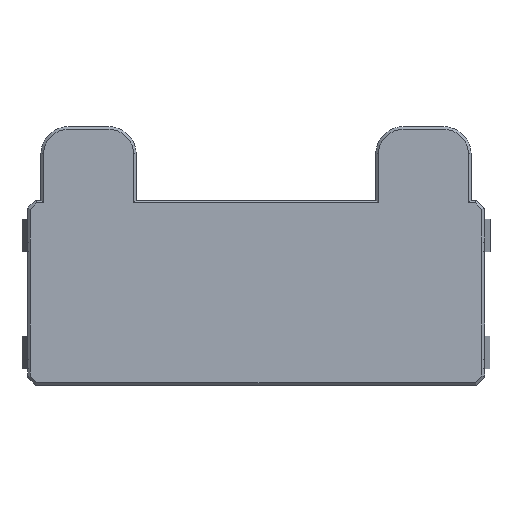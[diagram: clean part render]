
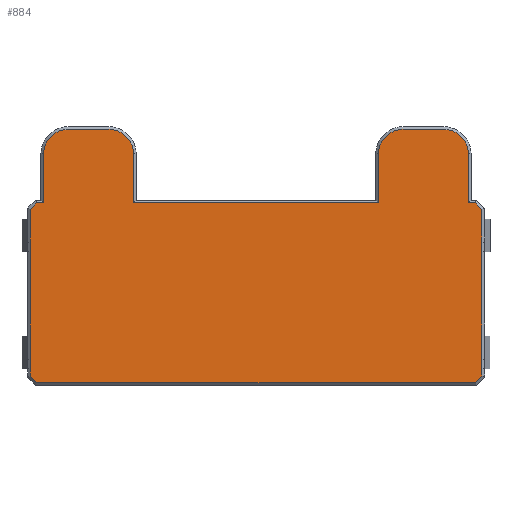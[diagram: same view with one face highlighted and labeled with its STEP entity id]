
A CAD part, top view. The second image highlights one B-rep face of the part: STEP entity #884.
In plain terms, the highlighted planar face has unit normal (0, 0, 1).
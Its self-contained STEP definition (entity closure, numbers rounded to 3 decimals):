
#649=CARTESIAN_POINT('',(17.125,-94.9,30.));
#650=DIRECTION('',(0.,0.,1.));
#651=DIRECTION('',(1.,0.,0.));
#652=AXIS2_PLACEMENT_3D('',#649,#650,#651);
#653=PLANE('',#652);
#654=CARTESIAN_POINT('',(-78.002,-64.5,30.));
#655=VERTEX_POINT('',#654);
#656=CARTESIAN_POINT('',(-78.002,-82.5,30.));
#657=VERTEX_POINT('',#656);
#658=CARTESIAN_POINT('',(-78.002,-64.5,30.));
#659=DIRECTION('',(0.,-1.,0.));
#660=VECTOR('',#659,18.);
#661=LINE('',#658,#660);
#662=EDGE_CURVE('',#655,#657,#661,.T.);
#663=ORIENTED_EDGE('',*,*,#662,.T.);
#664=CARTESIAN_POINT('',(-80.587,-82.5,30.));
#665=VERTEX_POINT('',#664);
#666=CARTESIAN_POINT('',(-78.002,-82.5,30.));
#667=DIRECTION('',(-1.,0.,0.));
#668=VECTOR('',#667,2.586);
#669=LINE('',#666,#668);
#670=EDGE_CURVE('',#657,#665,#669,.T.);
#671=ORIENTED_EDGE('',*,*,#670,.T.);
#672=CARTESIAN_POINT('',(-82.902,-84.814,30.));
#673=VERTEX_POINT('',#672);
#674=CARTESIAN_POINT('',(-80.587,-82.5,30.));
#675=DIRECTION('',(-0.707,-0.707,0.));
#676=VECTOR('',#675,3.273);
#677=LINE('',#674,#676);
#678=EDGE_CURVE('',#665,#673,#677,.T.);
#679=ORIENTED_EDGE('',*,*,#678,.T.);
#680=CARTESIAN_POINT('',(-82.901,-96.9,30.));
#681=VERTEX_POINT('',#680);
#682=CARTESIAN_POINT('',(-82.902,-84.814,30.));
#683=DIRECTION('',(0.,-1.,0.));
#684=VECTOR('',#683,12.086);
#685=LINE('',#682,#684);
#686=EDGE_CURVE('',#673,#681,#685,.T.);
#687=ORIENTED_EDGE('',*,*,#686,.T.);
#688=CARTESIAN_POINT('',(-82.901,-100.4,30.));
#689=VERTEX_POINT('',#688);
#690=CARTESIAN_POINT('',(-82.9,-96.9,30.));
#691=DIRECTION('',(0.,-1.,0.));
#692=VECTOR('',#691,3.5);
#693=LINE('',#690,#692);
#694=EDGE_CURVE('',#681,#689,#693,.T.);
#695=ORIENTED_EDGE('',*,*,#694,.T.);
#696=CARTESIAN_POINT('',(-82.901,-139.9,30.));
#697=VERTEX_POINT('',#696);
#698=CARTESIAN_POINT('',(-82.902,-100.4,30.));
#699=DIRECTION('',(0.,-1.,0.));
#700=VECTOR('',#699,39.5);
#701=LINE('',#698,#700);
#702=EDGE_CURVE('',#689,#697,#701,.T.);
#703=ORIENTED_EDGE('',*,*,#702,.T.);
#704=CARTESIAN_POINT('',(-82.901,-143.4,30.));
#705=VERTEX_POINT('',#704);
#706=CARTESIAN_POINT('',(-82.9,-139.9,30.));
#707=DIRECTION('',(0.,-1.,0.));
#708=VECTOR('',#707,3.5);
#709=LINE('',#706,#708);
#710=EDGE_CURVE('',#697,#705,#709,.T.);
#711=ORIENTED_EDGE('',*,*,#710,.T.);
#712=CARTESIAN_POINT('',(-82.902,-146.186,30.));
#713=VERTEX_POINT('',#712);
#714=CARTESIAN_POINT('',(-82.902,-143.4,30.));
#715=DIRECTION('',(0.,-1.,0.));
#716=VECTOR('',#715,2.786);
#717=LINE('',#714,#716);
#718=EDGE_CURVE('',#705,#713,#717,.T.);
#719=ORIENTED_EDGE('',*,*,#718,.T.);
#720=CARTESIAN_POINT('',(-80.587,-148.5,30.));
#721=VERTEX_POINT('',#720);
#722=CARTESIAN_POINT('',(-82.902,-146.186,30.));
#723=DIRECTION('',(0.707,-0.707,0.));
#724=VECTOR('',#723,3.273);
#725=LINE('',#722,#724);
#726=EDGE_CURVE('',#713,#721,#725,.T.);
#727=ORIENTED_EDGE('',*,*,#726,.T.);
#728=CARTESIAN_POINT('',(80.584,-148.5,30.));
#729=VERTEX_POINT('',#728);
#730=CARTESIAN_POINT('',(-80.587,-148.5,30.));
#731=DIRECTION('',(1.,0.,-0.));
#732=VECTOR('',#731,161.172);
#733=LINE('',#730,#732);
#734=EDGE_CURVE('',#721,#729,#733,.T.);
#735=ORIENTED_EDGE('',*,*,#734,.T.);
#736=CARTESIAN_POINT('',(82.998,-146.086,30.));
#737=VERTEX_POINT('',#736);
#738=CARTESIAN_POINT('',(80.584,-148.5,30.));
#739=DIRECTION('',(0.707,0.707,0.));
#740=VECTOR('',#739,3.414);
#741=LINE('',#738,#740);
#742=EDGE_CURVE('',#729,#737,#741,.T.);
#743=ORIENTED_EDGE('',*,*,#742,.T.);
#744=CARTESIAN_POINT('',(82.999,-143.4,30.));
#745=VERTEX_POINT('',#744);
#746=CARTESIAN_POINT('',(82.998,-146.086,30.));
#747=DIRECTION('',(0.,1.,0.));
#748=VECTOR('',#747,2.686);
#749=LINE('',#746,#748);
#750=EDGE_CURVE('',#737,#745,#749,.T.);
#751=ORIENTED_EDGE('',*,*,#750,.T.);
#752=CARTESIAN_POINT('',(82.999,-139.9,30.));
#753=VERTEX_POINT('',#752);
#754=CARTESIAN_POINT('',(83.,-143.4,30.));
#755=DIRECTION('',(0.,1.,0.));
#756=VECTOR('',#755,3.5);
#757=LINE('',#754,#756);
#758=EDGE_CURVE('',#745,#753,#757,.T.);
#759=ORIENTED_EDGE('',*,*,#758,.T.);
#760=CARTESIAN_POINT('',(82.999,-100.4,30.));
#761=VERTEX_POINT('',#760);
#762=CARTESIAN_POINT('',(82.998,-139.9,30.));
#763=DIRECTION('',(0.,1.,0.));
#764=VECTOR('',#763,39.5);
#765=LINE('',#762,#764);
#766=EDGE_CURVE('',#753,#761,#765,.T.);
#767=ORIENTED_EDGE('',*,*,#766,.T.);
#768=CARTESIAN_POINT('',(82.999,-96.9,30.));
#769=VERTEX_POINT('',#768);
#770=CARTESIAN_POINT('',(83.,-100.4,30.));
#771=DIRECTION('',(0.,1.,0.));
#772=VECTOR('',#771,3.5);
#773=LINE('',#770,#772);
#774=EDGE_CURVE('',#761,#769,#773,.T.);
#775=ORIENTED_EDGE('',*,*,#774,.T.);
#776=CARTESIAN_POINT('',(82.998,-84.914,30.));
#777=VERTEX_POINT('',#776);
#778=CARTESIAN_POINT('',(82.998,-96.9,30.));
#779=DIRECTION('',(0.,1.,0.));
#780=VECTOR('',#779,11.986);
#781=LINE('',#778,#780);
#782=EDGE_CURVE('',#769,#777,#781,.T.);
#783=ORIENTED_EDGE('',*,*,#782,.T.);
#784=CARTESIAN_POINT('',(80.584,-82.5,30.));
#785=VERTEX_POINT('',#784);
#786=CARTESIAN_POINT('',(82.998,-84.914,30.));
#787=DIRECTION('',(-0.707,0.707,0.));
#788=VECTOR('',#787,3.414);
#789=LINE('',#786,#788);
#790=EDGE_CURVE('',#777,#785,#789,.T.);
#791=ORIENTED_EDGE('',*,*,#790,.T.);
#792=CARTESIAN_POINT('',(77.998,-82.5,30.));
#793=VERTEX_POINT('',#792);
#794=CARTESIAN_POINT('',(80.584,-82.5,30.));
#795=DIRECTION('',(-1.,0.,0.));
#796=VECTOR('',#795,2.586);
#797=LINE('',#794,#796);
#798=EDGE_CURVE('',#785,#793,#797,.T.);
#799=ORIENTED_EDGE('',*,*,#798,.T.);
#800=CARTESIAN_POINT('',(77.998,-64.5,30.));
#801=VERTEX_POINT('',#800);
#802=CARTESIAN_POINT('',(77.998,-82.5,30.));
#803=DIRECTION('',(0.,1.,0.));
#804=VECTOR('',#803,18.);
#805=LINE('',#802,#804);
#806=EDGE_CURVE('',#793,#801,#805,.T.);
#807=ORIENTED_EDGE('',*,*,#806,.T.);
#808=CARTESIAN_POINT('',(68.998,-55.5,30.));
#809=VERTEX_POINT('',#808);
#810=CARTESIAN_POINT('',(68.998,-64.5,30.));
#811=DIRECTION('',(0.,0.,1.));
#812=DIRECTION('',(1.,0.,-0.));
#813=AXIS2_PLACEMENT_3D('',#810,#811,#812);
#814=CIRCLE('',#813,9.);
#815=EDGE_CURVE('',#801,#809,#814,.T.);
#816=ORIENTED_EDGE('',*,*,#815,.T.);
#817=CARTESIAN_POINT('',(53.998,-55.5,30.));
#818=VERTEX_POINT('',#817);
#819=CARTESIAN_POINT('',(68.998,-55.5,30.));
#820=DIRECTION('',(-1.,0.,0.));
#821=VECTOR('',#820,15.);
#822=LINE('',#819,#821);
#823=EDGE_CURVE('',#809,#818,#822,.T.);
#824=ORIENTED_EDGE('',*,*,#823,.T.);
#825=CARTESIAN_POINT('',(44.998,-64.5,30.));
#826=VERTEX_POINT('',#825);
#827=CARTESIAN_POINT('',(53.998,-64.5,30.));
#828=DIRECTION('',(0.,0.,1.));
#829=DIRECTION('',(1.,0.,-0.));
#830=AXIS2_PLACEMENT_3D('',#827,#828,#829);
#831=CIRCLE('',#830,9.);
#832=EDGE_CURVE('',#818,#826,#831,.T.);
#833=ORIENTED_EDGE('',*,*,#832,.T.);
#834=CARTESIAN_POINT('',(44.998,-82.5,30.));
#835=VERTEX_POINT('',#834);
#836=CARTESIAN_POINT('',(44.998,-64.5,30.));
#837=DIRECTION('',(0.,-1.,0.));
#838=VECTOR('',#837,18.);
#839=LINE('',#836,#838);
#840=EDGE_CURVE('',#826,#835,#839,.T.);
#841=ORIENTED_EDGE('',*,*,#840,.T.);
#842=CARTESIAN_POINT('',(-45.002,-82.5,30.));
#843=VERTEX_POINT('',#842);
#844=CARTESIAN_POINT('',(44.998,-82.5,30.));
#845=DIRECTION('',(-1.,0.,0.));
#846=VECTOR('',#845,90.);
#847=LINE('',#844,#846);
#848=EDGE_CURVE('',#835,#843,#847,.T.);
#849=ORIENTED_EDGE('',*,*,#848,.T.);
#850=CARTESIAN_POINT('',(-45.002,-64.5,30.));
#851=VERTEX_POINT('',#850);
#852=CARTESIAN_POINT('',(-45.002,-82.5,30.));
#853=DIRECTION('',(0.,1.,0.));
#854=VECTOR('',#853,18.);
#855=LINE('',#852,#854);
#856=EDGE_CURVE('',#843,#851,#855,.T.);
#857=ORIENTED_EDGE('',*,*,#856,.T.);
#858=CARTESIAN_POINT('',(-54.002,-55.5,30.));
#859=VERTEX_POINT('',#858);
#860=CARTESIAN_POINT('',(-54.002,-64.5,30.));
#861=DIRECTION('',(0.,0.,1.));
#862=DIRECTION('',(1.,0.,-0.));
#863=AXIS2_PLACEMENT_3D('',#860,#861,#862);
#864=CIRCLE('',#863,9.);
#865=EDGE_CURVE('',#851,#859,#864,.T.);
#866=ORIENTED_EDGE('',*,*,#865,.T.);
#867=CARTESIAN_POINT('',(-69.002,-55.5,30.));
#868=VERTEX_POINT('',#867);
#869=CARTESIAN_POINT('',(-54.002,-55.5,30.));
#870=DIRECTION('',(-1.,0.,0.));
#871=VECTOR('',#870,15.);
#872=LINE('',#869,#871);
#873=EDGE_CURVE('',#859,#868,#872,.T.);
#874=ORIENTED_EDGE('',*,*,#873,.T.);
#875=CARTESIAN_POINT('',(-69.002,-64.5,30.));
#876=DIRECTION('',(0.,0.,1.));
#877=DIRECTION('',(1.,0.,-0.));
#878=AXIS2_PLACEMENT_3D('',#875,#876,#877);
#879=CIRCLE('',#878,9.);
#880=EDGE_CURVE('',#868,#655,#879,.T.);
#881=ORIENTED_EDGE('',*,*,#880,.T.);
#882=EDGE_LOOP('',(#663,#671,#679,#687,#695,#703,#711,#719,#727,#735,#743,#751,#759,#767,#775,#783,#791,#799,#807,#816,#824,#833,#841,#849,#857,#866,
#874,#881));
#883=FACE_BOUND('',#882,.T.);
#884=ADVANCED_FACE('',(#883),#653,.T.);
